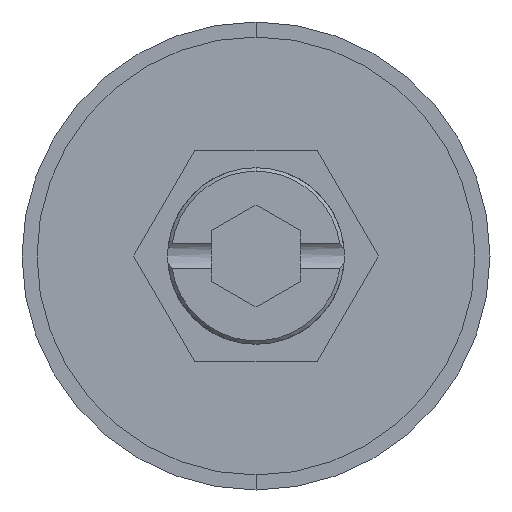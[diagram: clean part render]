
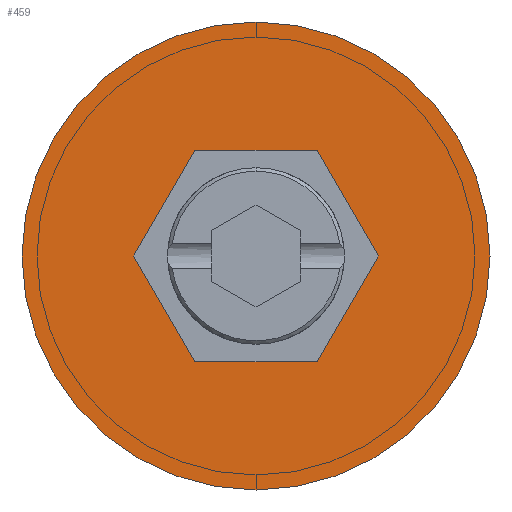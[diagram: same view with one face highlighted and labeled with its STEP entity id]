
A CAD part, front view. The second image highlights one B-rep face of the part: STEP entity #459.
In plain terms, the highlighted planar face has unit normal (0, -1, 0).
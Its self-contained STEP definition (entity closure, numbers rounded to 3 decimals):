
#12 = CARTESIAN_POINT ( 'NONE',  ( 0., 0., 0. ) ) ;
#20 = LINE ( 'NONE', #1870, #996 ) ;
#47 = DIRECTION ( 'NONE',  ( 0., 0., -1. ) ) ;
#54 = DIRECTION ( 'NONE',  ( -1., 0., 0. ) ) ;
#58 = LINE ( 'NONE', #1795, #976 ) ;
#71 = ORIENTED_EDGE ( 'NONE', *, *, #72, .F. ) ;
#72 = EDGE_CURVE ( 'NONE', #1430, #1095, #770, .T. ) ;
#107 = VERTEX_POINT ( 'NONE', #892 ) ;
#172 = ORIENTED_EDGE ( 'NONE', *, *, #1519, .F. ) ;
#190 = DIRECTION ( 'NONE',  ( 0., 0., -1. ) ) ;
#216 = CARTESIAN_POINT ( 'NONE',  ( 6.928, 0., 0. ) ) ;
#230 = DIRECTION ( 'NONE',  ( 0.5, 0., -0.866 ) ) ;
#359 = EDGE_CURVE ( 'NONE', #107, #1430, #1256, .T. ) ;
#397 = ORIENTED_EDGE ( 'NONE', *, *, #2109, .T. ) ;
#418 = DIRECTION ( 'NONE',  ( -0.5, 0., 0.866 ) ) ;
#419 = CARTESIAN_POINT ( 'NONE',  ( 0., 0., 13.25 ) ) ;
#445 = EDGE_CURVE ( 'NONE', #1693, #2012, #20, .T. ) ;
#456 = AXIS2_PLACEMENT_3D ( 'NONE', #2129, #1120, #47 ) ;
#459 = ADVANCED_FACE ( 'NONE', ( #545, #1333 ), #869, .T. ) ;
#518 = DIRECTION ( 'NONE',  ( -0.5, 0., -0.866 ) ) ;
#545 = FACE_BOUND ( 'NONE', #2203, .T. ) ;
#561 = VERTEX_POINT ( 'NONE', #1516 ) ;
#601 = CARTESIAN_POINT ( 'NONE',  ( -6.928, 0., 0. ) ) ;
#671 = DIRECTION ( 'NONE',  ( 0.5, 0., 0.866 ) ) ;
#717 = VECTOR ( 'NONE', #2126, 1000. ) ;
#770 = LINE ( 'NONE', #2179, #1601 ) ;
#869 = PLANE ( 'NONE',  #2170 ) ;
#879 = ORIENTED_EDGE ( 'NONE', *, *, #1311, .F. ) ;
#888 = VERTEX_POINT ( 'NONE', #419 ) ;
#892 = CARTESIAN_POINT ( 'NONE',  ( -3.464, 0., -6. ) ) ;
#976 = VECTOR ( 'NONE', #230, 1000. ) ;
#996 = VECTOR ( 'NONE', #518, 1000. ) ;
#1044 = ORIENTED_EDGE ( 'NONE', *, *, #1554, .F. ) ;
#1046 = DIRECTION ( 'NONE',  ( 0., -1., 0. ) ) ;
#1095 = VERTEX_POINT ( 'NONE', #1150 ) ;
#1120 = DIRECTION ( 'NONE',  ( 0., -1., 0. ) ) ;
#1128 = CARTESIAN_POINT ( 'NONE',  ( 3.464, 0., 6. ) ) ;
#1150 = CARTESIAN_POINT ( 'NONE',  ( 6.928, 0., 0. ) ) ;
#1253 = DIRECTION ( 'NONE',  ( 0., -1., 0. ) ) ;
#1256 = LINE ( 'NONE', #2089, #717 ) ;
#1311 = EDGE_CURVE ( 'NONE', #1095, #1604, #2152, .T. ) ;
#1333 = FACE_OUTER_BOUND ( 'NONE', #1558, .T. ) ;
#1366 = VECTOR ( 'NONE', #54, 1000. ) ;
#1412 = LINE ( 'NONE', #1128, #1366 ) ;
#1430 = VERTEX_POINT ( 'NONE', #1468 ) ;
#1435 = CARTESIAN_POINT ( 'NONE',  ( 3.464, 0., 6. ) ) ;
#1468 = CARTESIAN_POINT ( 'NONE',  ( 3.464, 0., -6. ) ) ;
#1516 = CARTESIAN_POINT ( 'NONE',  ( 0., 0., -13.25 ) ) ;
#1519 = EDGE_CURVE ( 'NONE', #2012, #107, #58, .T. ) ;
#1554 = EDGE_CURVE ( 'NONE', #1604, #1693, #1412, .T. ) ;
#1558 = EDGE_LOOP ( 'NONE', ( #397, #2097 ) ) ;
#1601 = VECTOR ( 'NONE', #671, 1000. ) ;
#1604 = VERTEX_POINT ( 'NONE', #1435 ) ;
#1614 = CARTESIAN_POINT ( 'NONE',  ( -3.464, 0., 6. ) ) ;
#1693 = VERTEX_POINT ( 'NONE', #1614 ) ;
#1705 = CIRCLE ( 'NONE', #456, 13.25 ) ;
#1707 = CARTESIAN_POINT ( 'NONE',  ( 0., 0., 0. ) ) ;
#1795 = CARTESIAN_POINT ( 'NONE',  ( -6.928, 0., 0. ) ) ;
#1857 = ORIENTED_EDGE ( 'NONE', *, *, #359, .F. ) ;
#1870 = CARTESIAN_POINT ( 'NONE',  ( -3.464, 0., 6. ) ) ;
#1941 = ORIENTED_EDGE ( 'NONE', *, *, #445, .F. ) ;
#1980 = EDGE_CURVE ( 'NONE', #888, #561, #2115, .T. ) ;
#2012 = VERTEX_POINT ( 'NONE', #601 ) ;
#2079 = AXIS2_PLACEMENT_3D ( 'NONE', #12, #1253, #190 ) ;
#2084 = VECTOR ( 'NONE', #418, 1000. ) ;
#2089 = CARTESIAN_POINT ( 'NONE',  ( -3.464, 0., -6. ) ) ;
#2097 = ORIENTED_EDGE ( 'NONE', *, *, #1980, .T. ) ;
#2109 = EDGE_CURVE ( 'NONE', #561, #888, #1705, .T. ) ;
#2115 = CIRCLE ( 'NONE', #2079, 13.25 ) ;
#2126 = DIRECTION ( 'NONE',  ( 1., 0., 0. ) ) ;
#2129 = CARTESIAN_POINT ( 'NONE',  ( 0., 0., 0. ) ) ;
#2152 = LINE ( 'NONE', #216, #2084 ) ;
#2170 = AXIS2_PLACEMENT_3D ( 'NONE', #1707, #1046, #2214 ) ;
#2179 = CARTESIAN_POINT ( 'NONE',  ( 3.464, 0., -6. ) ) ;
#2203 = EDGE_LOOP ( 'NONE', ( #1857, #172, #1941, #1044, #879, #71 ) ) ;
#2214 = DIRECTION ( 'NONE',  ( 0., 0., -1. ) ) ;
